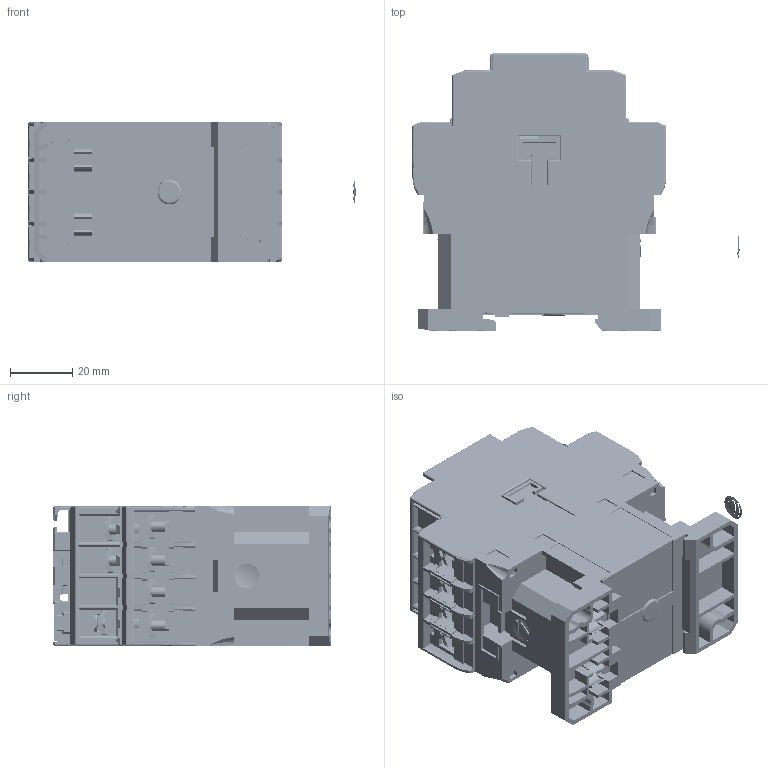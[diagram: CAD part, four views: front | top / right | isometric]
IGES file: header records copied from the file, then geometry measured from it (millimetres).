
Start section: SolidWorks IGES file using analytic representation for surfaces
Global section: file name: \\Brjgs100\dfsweg\GROUPS\BR_SC_JGS_WA_TECNICO\ENG\Usuarios\Rodrigob\conversão\contatores\Produto\CWB9...18 4P\CWB9...18 4P.IGS; native system: SolidWorks 2018; preprocessor: SolidWorks 2018; author: rodrigob; date: 201126.153823; units: millimetre
Bounding box: 105.39 x 89.25 x 44.8 mm (x, y, z)
Surface area: 79056 mm2 (no closed solid volume)
Topology: 0 solids, 0 shells, 5756 faces, 43639 edges, 43457 vertices
Faces by surface type: bspline 3977, revolution 1779
